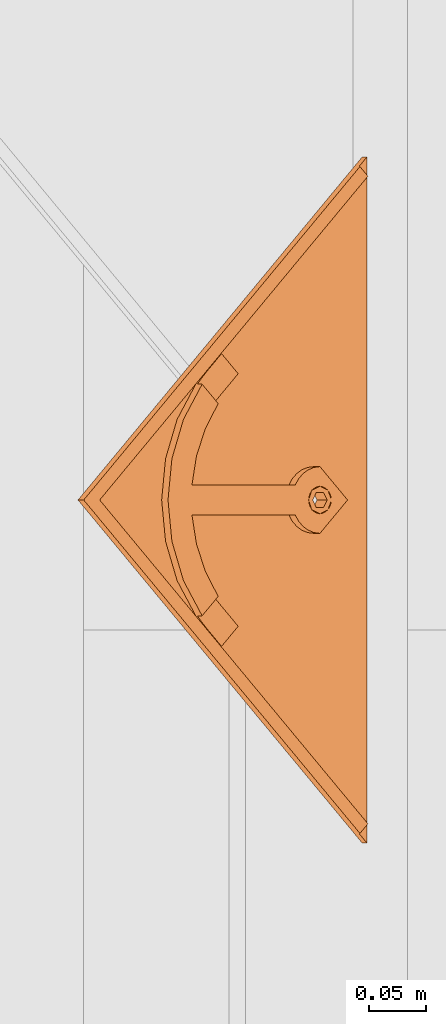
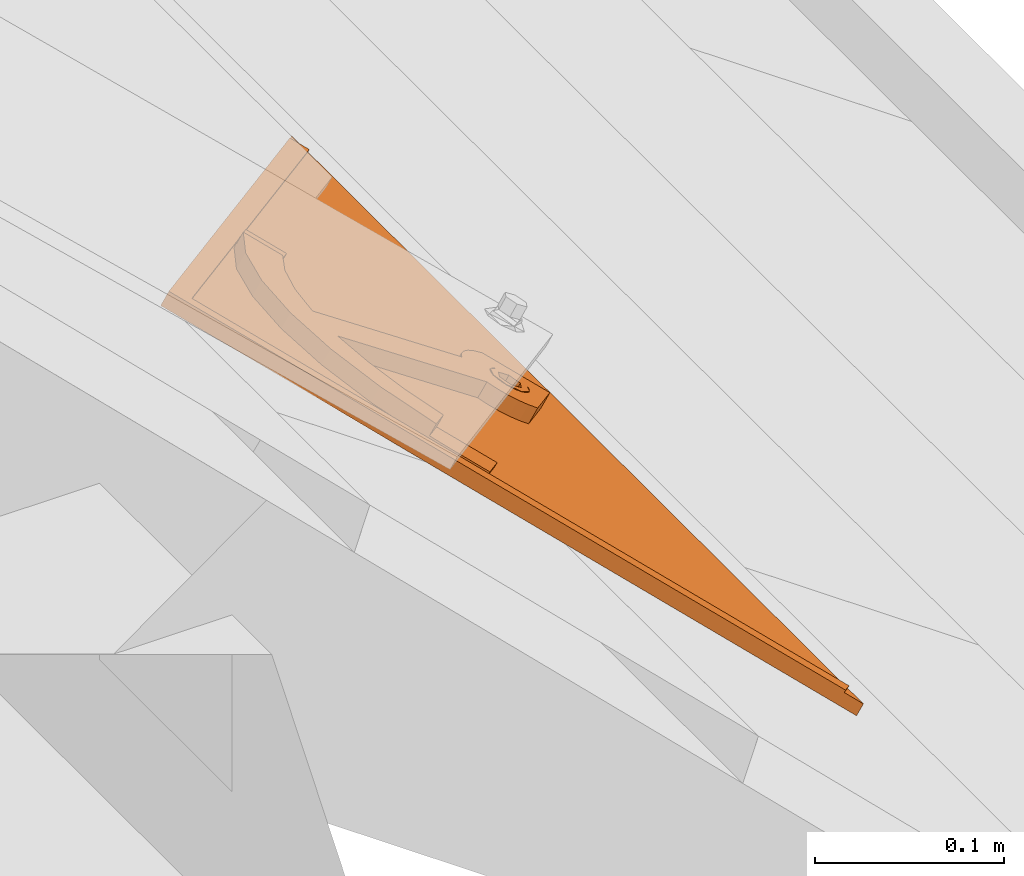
# One storey, part 114 of 133: 1 proxy.
"""IFC2X3 building model written with IfcOpenShell, lengths in millimetres."""

from ifc_helpers import new_model, entity, si_unit, converted_unit, derived_unit, direction, frame, origin, place, context, subcontext, project, spatial, faceted_brep, source, transform, mapped, material, material_list, type_object, type_shapes, element, save


model = new_model("IFC2X3")

# Units and contexts
model_context = context("Model", 3, precision=0.01, world=origin(), true_north=direction((6.12303176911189e-17, 1.0)))
body_context = subcontext(model_context, "Body", "Model", "MODEL_VIEW")
ifc_project = project(units=[si_unit("LENGTHUNIT", "METRE", prefix="MILLI"), si_unit("AREAUNIT", "SQUARE_METRE"), si_unit("VOLUMEUNIT", "CUBIC_METRE"), converted_unit("PLANEANGLEUNIT", "DEGREE", entity("IfcRatioMeasure", 0.0174532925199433), si_unit("PLANEANGLEUNIT", "RADIAN"), dimensions=[0, 0, 0, 0, 0, 0, 0]), si_unit("MASSUNIT", "GRAM", prefix="KILO"), derived_unit("MASSDENSITYUNIT", [(si_unit("MASSUNIT", "GRAM", prefix="KILO"), 1), (si_unit("LENGTHUNIT", "METRE"), -3)]), si_unit("TIMEUNIT", "SECOND"), si_unit("FREQUENCYUNIT", "HERTZ"), si_unit("THERMODYNAMICTEMPERATUREUNIT", "DEGREE_CELSIUS"), derived_unit("THERMALTRANSMITTANCEUNIT", [(si_unit("MASSUNIT", "GRAM", prefix="KILO"), 1), (si_unit("THERMODYNAMICTEMPERATUREUNIT", "KELVIN"), -1), (si_unit("TIMEUNIT", "SECOND"), -3)]), derived_unit("VOLUMETRICFLOWRATEUNIT", [(si_unit("LENGTHUNIT", "METRE"), 3), (si_unit("TIMEUNIT", "SECOND"), -1)]), si_unit("ELECTRICCURRENTUNIT", "AMPERE"), si_unit("ELECTRICVOLTAGEUNIT", "VOLT"), si_unit("POWERUNIT", "WATT"), si_unit("FORCEUNIT", "NEWTON", prefix="KILO"), si_unit("ILLUMINANCEUNIT", "LUX"), si_unit("LUMINOUSFLUXUNIT", "LUMEN"), si_unit("LUMINOUSINTENSITYUNIT", "CANDELA"), derived_unit("USERDEFINED", [(si_unit("MASSUNIT", "GRAM", prefix="KILO"), -1), (si_unit("LENGTHUNIT", "METRE"), -2), (si_unit("TIMEUNIT", "SECOND"), 3), (si_unit("LUMINOUSFLUXUNIT", "LUMEN"), 1)]), derived_unit("LINEARVELOCITYUNIT", [(si_unit("LENGTHUNIT", "METRE"), 1), (si_unit("TIMEUNIT", "SECOND"), -1)]), si_unit("PRESSUREUNIT", "PASCAL"), derived_unit("USERDEFINED", [(si_unit("LENGTHUNIT", "METRE"), -2), (si_unit("MASSUNIT", "GRAM", prefix="KILO"), 1), (si_unit("TIMEUNIT", "SECOND"), -2)])], contexts=[model_context])

# Site, building, storey
site_placement = place(None, origin())
site = spatial("IfcSite", under=ifc_project, at=site_placement, Name="Default", CompositionType="ELEMENT")
building_placement = place(site_placement, origin())
building = spatial("IfcBuilding", under=site, at=building_placement, CompositionType="ELEMENT")
storey_placement = place(building_placement, origin())
storey = spatial("IfcBuildingStorey", under=building, at=storey_placement, Name="Level 1", CompositionType="ELEMENT", Elevation=0.0)

# Proxy
ifc_material_1 = material(Name="Rubber - Sunstyle - Black")
ifc_material_2 = material(Name="Glass - Sunstyle - Tainted Black")
ifc_material_list_1 = material_list([ifc_material_1, ifc_material_2])
ifc_material_list_2 = material_list([ifc_material_1, ifc_material_2])
building_element_proxy_type = type_object("IfcBuildingElementProxyType", Name="Shingle Bottom Small - Black", PredefinedType="NOTDEFINED", material=ifc_material_list_2)
shared_shape = source(origin(), body_context, "Body", "Brep", [
    faceted_brep([(302.08842791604, 44.9093317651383, 22.0558382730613), (302.08842791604, 49.408700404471, 21.980485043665), (293.484723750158, 48.4726030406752, 21.9961623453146), (310.692132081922, 48.4726030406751, 21.9961623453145), (308.728656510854, 53.2419006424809, 21.9162884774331), (314.255903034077, 57.0751008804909, 21.8520919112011), (308.728656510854, 60.9083011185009, 21.7878953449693), (310.692132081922, 65.6775987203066, 21.7080214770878), (302.08842791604, 64.7415013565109, 21.7236987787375), (302.08842791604, 69.2408699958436, 21.6483455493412), (293.484723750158, 65.6775987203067, 21.708021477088), (295.448199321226, 60.908301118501, 21.7878953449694), (289.920952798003, 57.0751008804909, 21.8520919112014), (295.448199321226, 53.2419006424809, 21.9162884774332), (295.448199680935, 60.6403782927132, 5.79013870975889), (302.08842791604, 64.473578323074, 5.72594214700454), (295.448199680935, 52.9739782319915, 5.91853183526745), (302.08842791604, 49.1407782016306, 5.98272839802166), (308.728656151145, 52.9739782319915, 5.91853183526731), (308.728656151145, 60.6403782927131, 5.79013870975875), (293.484723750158, 48.2046804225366, 5.99840570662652), (302.08842791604, 44.6414091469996, 6.05808163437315), (289.920952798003, 56.8071782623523, 5.85433527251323), (293.484723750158, 65.4096761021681, 5.71026483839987), (302.08842791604, 68.972947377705, 5.65058891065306), (310.692132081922, 65.409676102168, 5.71026483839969), (314.255903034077, 56.8071782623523, 5.85433527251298), (310.692132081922, 48.2046804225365, 5.99840570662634)], [[[0, 1, 2]], [[1, 0, 3]], [[3, 4, 1]], [[4, 3, 5]], [[6, 4, 5]], [[5, 7, 6]], [[7, 8, 6]], [[8, 7, 9]], [[8, 9, 10]], [[10, 11, 8]], [[12, 11, 10]], [[2, 13, 12]], [[12, 13, 11]], [[13, 2, 1]], [[8, 11, 14, 15]], [[11, 13, 16, 14]], [[13, 1, 17, 16]], [[1, 4, 18, 17]], [[4, 6, 19, 18]], [[6, 8, 15, 19]], [[20, 17, 21]], [[17, 20, 16]], [[22, 16, 20]], [[14, 16, 22]], [[23, 14, 22]], [[15, 14, 23]], [[23, 24, 15]], [[24, 25, 15]], [[19, 15, 25]], [[19, 25, 26]], [[26, 18, 19]], [[26, 27, 18]], [[17, 18, 27]], [[27, 21, 17]], [[24, 23, 10, 9]], [[10, 23, 22, 12]], [[20, 21, 0, 2]], [[20, 2, 12, 22]], [[21, 27, 3, 0]], [[3, 27, 26, 5]], [[25, 24, 9, 7]], [[25, 7, 5, 26]]]),
    faceted_brep([(587.35835892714, 0.0, 12.5593198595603), (595.843045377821, 8.4846864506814, 12.4172224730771), (595.843045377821, 8.50980419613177, 13.9170121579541), (587.35835892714, 0.0251177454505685, 14.0591095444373), (302.088750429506, 285.189618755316, 7.7831033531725), (16.8191419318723, 0.0, 12.5593198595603), (8.33445548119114, 8.48468645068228, 12.4172224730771), (302.088750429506, 302.156612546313, 7.49894842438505), (302.088750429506, 302.181730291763, 8.9987381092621), (8.33445548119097, 8.50980419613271, 13.9170121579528), (16.8191419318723, 0.0251177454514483, 14.0591095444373), (302.088750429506, 285.214736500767, 9.28289303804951)], [[[0, 1, 2, 3]], [[1, 0, 4, 5, 6, 7]], [[2, 1, 7, 8]], [[3, 2, 8, 9, 10, 11]], [[0, 3, 11, 4]], [[5, 10, 9, 6]], [[8, 7, 6, 9]], [[4, 11, 10, 5]]]),
    faceted_brep([(302.088750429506, 302.156612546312, 7.49894842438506), (305.194256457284, 68.3255429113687, 11.4150370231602), (308.088427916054, 67.1269059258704, 11.4351112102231), (302.088427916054, 68.7343756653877, 11.4081900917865), (310.573709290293, 65.2201498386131, 11.4670446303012), (298.982599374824, 68.3255429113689, 11.4150370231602), (296.088427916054, 67.1269059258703, 11.4351112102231), (293.603146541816, 65.2201498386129, 11.4670446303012), (312.480732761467, 62.7352169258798, 11.5086610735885), (604.177500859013, 0.152567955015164, 12.5567647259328), (291.696123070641, 62.7352169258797, 11.5086610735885), (0.0, 0.152567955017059, 12.5567647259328), (290.497318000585, 59.8414512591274, 11.5571244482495), (290.088427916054, 56.7360581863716, 11.6091320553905), (290.497318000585, 53.6306651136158, 11.6611396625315), (291.696123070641, 50.7368994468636, 11.7096030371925), (293.603146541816, 48.2519665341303, 11.7512194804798), (296.088427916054, 46.3452104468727, 11.7831529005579), (298.982599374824, 45.1465734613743, 11.8032270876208), (302.088427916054, 44.7377407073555, 11.8100740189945), (313.679537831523, 59.8414512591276, 11.5571244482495), (314.088427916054, 56.7360581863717, 11.6091320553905), (313.679537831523, 53.6306651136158, 11.6611396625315), (312.480732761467, 50.7368994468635, 11.7096030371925), (310.573709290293, 48.2519665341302, 11.7512194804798), (308.088427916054, 46.3452104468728, 11.7831529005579), (305.194256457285, 45.1465734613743, 11.8032270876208), (0.0, 0.0269792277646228, 5.0578163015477), (290.088427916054, 56.6104694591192, 4.11018363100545), (290.497318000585, 53.5050763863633, 4.16219123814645), (290.497318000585, 59.7158625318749, 4.05817602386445), (291.696123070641, 50.6113107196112, 4.21065461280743), (291.696123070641, 62.6096281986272, 4.00971264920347), (302.088750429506, 302.031023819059, 0.0), (293.603146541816, 48.1263778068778, 4.25227105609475), (296.088427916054, 46.2196217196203, 4.28420447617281), (298.982599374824, 45.0209847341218, 4.30427866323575), (302.088427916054, 44.612151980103, 4.31112559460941), (604.177500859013, 0.0269792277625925, 5.05781630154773), (293.603146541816, 65.0945611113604, 3.96809620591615), (296.088427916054, 67.0013171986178, 3.93616278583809), (298.982599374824, 68.1999541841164, 3.91608859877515), (302.088427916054, 68.6087869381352, 3.90924166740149), (305.194256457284, 68.1999541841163, 3.91608859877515), (308.088427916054, 67.0013171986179, 3.93616278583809), (310.573709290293, 65.0945611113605, 3.96809620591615), (312.480732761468, 62.6096281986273, 4.00971264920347), (305.194256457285, 45.0209847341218, 4.30427866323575), (308.088427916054, 46.2196217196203, 4.28420447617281), (313.679537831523, 59.7158625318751, 4.05817602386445), (314.088427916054, 56.6104694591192, 4.11018363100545), (313.679537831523, 53.5050763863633, 4.16219123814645), (312.480732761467, 50.611310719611, 4.21065461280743), (310.573709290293, 48.1263778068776, 4.25227105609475)], [[[0, 1, 2]], [[1, 0, 3]], [[0, 2, 4]], [[5, 3, 0]], [[6, 5, 0]], [[0, 7, 6]], [[8, 0, 4]], [[0, 8, 9]], [[7, 0, 10]], [[0, 11, 10]], [[12, 10, 11]], [[11, 13, 12]], [[13, 11, 14]], [[15, 14, 11]], [[11, 16, 15]], [[17, 16, 11]], [[17, 11, 18]], [[19, 18, 11]], [[19, 11, 9]], [[9, 8, 20]], [[20, 21, 9]], [[21, 22, 9]], [[22, 23, 9]], [[9, 23, 24]], [[24, 25, 9]], [[25, 26, 9]], [[9, 26, 19]], [[27, 28, 29]], [[28, 27, 30]], [[27, 29, 31]], [[32, 30, 27]], [[32, 27, 33]], [[31, 34, 27]], [[34, 35, 27]], [[35, 36, 27]], [[36, 37, 27]], [[27, 37, 38]], [[33, 39, 32]], [[40, 39, 33]], [[41, 40, 33]], [[42, 41, 33]], [[33, 43, 42]], [[43, 33, 44]], [[45, 44, 33]], [[33, 46, 45]], [[46, 33, 38]], [[38, 37, 47]], [[47, 48, 38]], [[49, 46, 38]], [[38, 50, 49]], [[50, 38, 51]], [[52, 51, 38]], [[53, 52, 38]], [[53, 38, 48]], [[11, 0, 33, 27]], [[0, 9, 38, 33]], [[13, 28, 30, 12]], [[12, 30, 32, 10]], [[6, 7, 39, 40]], [[39, 7, 10, 32]], [[5, 6, 40, 41]], [[5, 41, 42, 3]], [[3, 42, 43, 1]], [[1, 43, 44, 2]], [[8, 4, 45, 46]], [[45, 4, 2, 44]], [[20, 8, 46, 49]], [[20, 49, 50, 21]], [[21, 50, 51, 22]], [[22, 51, 52, 23]], [[25, 24, 53, 48]], [[53, 24, 23, 52]], [[26, 25, 48, 47]], [[26, 47, 37, 19]], [[19, 37, 36, 18]], [[18, 36, 35, 17]], [[15, 16, 34, 31]], [[34, 16, 17, 35]], [[14, 15, 31, 29]], [[14, 29, 28, 13]], [[9, 11, 27, 38]]]),
    faceted_brep([(190.819384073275, 138.646056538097, 12.7376939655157), (217.144031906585, 164.967013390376, 12.2968834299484), (200.060856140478, 182.04779392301, 12.0108228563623), (193.80845410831, 176.686146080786, 12.100617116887), (187.837458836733, 171.012871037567, 12.1956303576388), (173.141714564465, 156.321247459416, 12.4416784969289), (431.035141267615, 156.321247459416, 12.4416784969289), (416.339396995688, 171.012871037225, 12.1956303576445), (410.36840172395, 176.686146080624, 12.1006171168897), (404.115999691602, 182.047793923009, 12.0108228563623), (387.031626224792, 164.968210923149, 12.2968633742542), (413.357471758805, 138.646056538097, 12.7376939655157), (296.088427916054, 67.294357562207, 21.4337091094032), (288.788427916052, 83.1076295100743, 21.1688761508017), (283.384321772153, 79.569581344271, 21.2281296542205), (293.603146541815, 65.3876014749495, 21.4656425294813), (298.982599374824, 68.4929945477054, 21.4136349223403), (302.088427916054, 68.9018273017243, 21.4067879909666), (315.388427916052, 83.107629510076, 21.1688761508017), (305.194256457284, 68.4929945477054, 21.4136349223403), (308.088427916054, 67.2943575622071, 21.4337091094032), (320.792534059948, 79.5695813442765, 21.2281296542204), (310.573709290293, 65.3876014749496, 21.4656425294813), (325.293078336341, 74.9365758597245, 21.3057209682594), (312.480732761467, 62.9026685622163, 21.5072589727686), (328.672647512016, 69.4324252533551, 21.3979017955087), (313.679537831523, 60.0089028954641, 21.5557223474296), (330.767980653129, 63.323025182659, 21.500219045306), (314.088427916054, 56.9035098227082, 21.6077299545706), (331.477855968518, 56.9035098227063, 21.6077299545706), (313.679537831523, 53.7981167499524, 21.6597375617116), (312.480732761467, 50.9043510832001, 21.7082009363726), (310.573709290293, 48.4194181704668, 21.7498173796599), (302.08842791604, 27.5182024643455, 22.0998607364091), (308.088427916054, 46.5126620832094, 21.7817507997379), (305.194256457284, 45.314025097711, 21.8018249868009), (302.088427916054, 44.9051923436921, 21.8086719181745), (298.982599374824, 45.314025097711, 21.8018249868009), (296.088427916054, 46.5126620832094, 21.7817507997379), (293.603146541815, 48.4194181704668, 21.7498173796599), (272.69899986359, 56.903509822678, 21.6077299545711), (291.696123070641, 50.9043510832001, 21.7082009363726), (290.497318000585, 53.7981167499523, 21.6597375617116), (290.088427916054, 56.9035098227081, 21.6077299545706), (273.408875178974, 63.3230251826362, 21.5002190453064), (290.497318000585, 60.008902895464, 21.5557223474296), (275.504208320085, 69.4324252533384, 21.397901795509), (291.696123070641, 62.9026685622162, 21.5072589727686), (278.883777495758, 74.9365758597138, 21.3057209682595), (288.788427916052, 192.984512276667, 19.3287117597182), (315.388427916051, 192.984512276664, 19.3287117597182), (302.088427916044, 218.456125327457, 18.9021256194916), (338.579268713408, 214.282159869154, 18.9720291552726), (340.858170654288, 188.169632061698, 19.4093490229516), (373.184513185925, 201.975945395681, 19.1781276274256), (365.012761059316, 178.765998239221, 19.5668364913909), (404.115999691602, 182.173382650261, 19.5097712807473), (387.032823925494, 165.092602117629, 19.7958318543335), (265.59758711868, 214.28215986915, 18.9720291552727), (263.318685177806, 188.169632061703, 19.4093490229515), (230.992342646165, 201.975945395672, 19.1781276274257), (239.164094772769, 178.765998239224, 19.5668364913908), (200.06085614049, 182.173382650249, 19.5097712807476), (217.144031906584, 165.092602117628, 19.7958318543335), (302.08842791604, 27.3507508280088, 12.1012628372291), (302.088427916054, 44.7377407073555, 11.8100740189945), (305.194256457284, 45.1465734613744, 11.8032270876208), (298.982599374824, 45.1465734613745, 11.8032270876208), (308.088427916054, 46.3452104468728, 11.7831529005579), (310.573709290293, 48.2519665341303, 11.7512194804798), (331.477855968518, 56.7360581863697, 11.6091320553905), (296.088427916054, 46.3452104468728, 11.7831529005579), (293.603146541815, 48.2519665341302, 11.7512194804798), (272.69899986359, 56.7360581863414, 11.609132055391), (291.696123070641, 50.7368994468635, 11.7096030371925), (290.497318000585, 53.6306651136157, 11.6611396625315), (290.088427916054, 56.7360581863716, 11.6091320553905), (273.408875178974, 63.1555735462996, 11.5016211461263), (290.497318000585, 59.8414512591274, 11.5571244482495), (275.504208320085, 69.2649736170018, 11.3993038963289), (291.696123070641, 62.7352169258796, 11.5086610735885), (278.883777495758, 74.7691242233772, 11.3071230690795), (293.603146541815, 65.2201498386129, 11.4670446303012), (283.384321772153, 79.4021297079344, 11.2295317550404), (296.088427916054, 67.1269059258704, 11.4351112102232), (288.788427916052, 82.9401778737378, 11.1702782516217), (298.982599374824, 68.3255429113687, 11.4150370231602), (302.088427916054, 68.7343756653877, 11.4081900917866), (315.388427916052, 82.9401778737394, 11.1702782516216), (288.788427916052, 192.81706064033, 9.33011386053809), (315.388427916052, 192.817060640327, 9.33011386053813), (302.088427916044, 218.28867369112, 8.90352772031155), (265.59758711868, 214.114708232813, 8.97343125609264), (263.318685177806, 188.002180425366, 9.41075112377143), (230.992342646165, 201.808493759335, 9.17952972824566), (239.164094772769, 178.598546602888, 9.56823859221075), (200.06085614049, 182.005931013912, 9.51117338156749), (217.145229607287, 164.926348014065, 9.79721389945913), (193.80845410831, 176.644283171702, 9.60096764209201), (187.837458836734, 170.971008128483, 9.69598088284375), (190.819384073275, 138.604193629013, 10.2380444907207), (173.141714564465, 156.279384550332, 9.94202902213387), (338.579268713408, 214.114708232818, 8.97343125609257), (340.858170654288, 188.002180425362, 9.41075112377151), (373.184513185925, 201.808493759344, 9.17952972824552), (365.012761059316, 178.598546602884, 9.5682385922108), (404.115999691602, 182.005931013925, 9.51117338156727), (387.032823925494, 164.925150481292, 9.79723395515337), (410.36840172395, 176.64428317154, 9.60096764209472), (416.339396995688, 170.971008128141, 9.69598088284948), (413.357471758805, 138.604193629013, 10.2380444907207), (431.035141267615, 156.279384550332, 9.94202902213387), (305.194256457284, 68.3255429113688, 11.4150370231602), (308.088427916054, 67.1269059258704, 11.4351112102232), (320.792534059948, 79.4021297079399, 11.2295317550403), (310.573709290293, 65.220149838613, 11.4670446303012), (325.293078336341, 74.7691242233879, 11.3071230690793), (312.480732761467, 62.7352169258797, 11.5086610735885), (328.672647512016, 69.2649736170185, 11.3993038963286), (313.679537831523, 59.8414512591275, 11.5571244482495), (330.767980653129, 63.1555735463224, 11.5016211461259), (314.088427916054, 56.7360581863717, 11.6091320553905), (312.480732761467, 50.7368994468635, 11.7096030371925), (313.679537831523, 53.6306651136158, 11.6611396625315)], [[[0, 1, 2, 3, 4, 5]], [[6, 7, 8, 9, 10, 11]], [[12, 13, 14]], [[12, 14, 15]], [[16, 13, 12]], [[17, 13, 16]], [[18, 13, 17]], [[17, 19, 18]], [[19, 20, 18]], [[20, 21, 18]], [[21, 20, 22]], [[21, 22, 23]], [[24, 23, 22]], [[23, 24, 25]], [[24, 26, 25]], [[27, 25, 26]], [[26, 28, 27]], [[29, 27, 28]], [[28, 30, 29]], [[30, 31, 29]], [[29, 31, 32]], [[32, 33, 29]], [[32, 34, 33]], [[35, 33, 34]], [[36, 33, 35]], [[33, 36, 37]], [[38, 33, 37]], [[38, 39, 33]], [[40, 33, 39]], [[41, 40, 39]], [[41, 42, 40]], [[42, 43, 40]], [[43, 44, 40]], [[45, 44, 43]], [[45, 46, 44]], [[45, 47, 46]], [[48, 46, 47]], [[48, 47, 15]], [[48, 15, 14]], [[18, 49, 13]], [[50, 49, 18]], [[51, 49, 50]], [[50, 52, 51]], [[50, 53, 52]], [[52, 53, 54]], [[53, 55, 54]], [[56, 54, 55]], [[57, 56, 55]], [[58, 49, 51]], [[49, 58, 59]], [[60, 59, 58]], [[60, 61, 59]], [[61, 60, 62]], [[62, 63, 61]], [[64, 65, 66]], [[65, 64, 67]], [[64, 66, 68]], [[68, 69, 64]], [[64, 69, 70]], [[71, 67, 64]], [[71, 64, 72]], [[72, 64, 73]], [[73, 74, 72]], [[74, 73, 75]], [[75, 73, 76]], [[77, 76, 73]], [[76, 77, 78]], [[78, 77, 79]], [[80, 78, 79]], [[81, 80, 79]], [[82, 80, 81]], [[83, 82, 81]], [[83, 84, 82]], [[85, 84, 83]], [[85, 86, 84]], [[87, 86, 85]], [[88, 87, 85]], [[89, 88, 85]], [[88, 89, 90]], [[89, 91, 90]], [[91, 89, 92]], [[93, 92, 89]], [[92, 93, 94]], [[95, 94, 93]], [[96, 94, 95]], [[95, 97, 96]], [[97, 98, 96]], [[98, 97, 99]], [[97, 100, 99]], [[99, 100, 101]], [[90, 91, 102]], [[103, 90, 102]], [[103, 102, 104]], [[105, 103, 104]], [[106, 105, 104]], [[107, 105, 106]], [[106, 108, 107]], [[109, 107, 108]], [[110, 107, 109]], [[109, 111, 110]], [[112, 87, 88]], [[113, 112, 88]], [[114, 113, 88]], [[115, 113, 114]], [[115, 114, 116]], [[116, 117, 115]], [[117, 116, 118]], [[118, 119, 117]], [[120, 119, 118]], [[121, 120, 70]], [[120, 121, 119]], [[70, 69, 122]], [[122, 123, 70]], [[123, 121, 70]], [[13, 49, 89, 85]], [[14, 13, 85, 83]], [[48, 14, 83, 81]], [[81, 79, 46, 48]], [[44, 46, 79, 77]], [[40, 44, 77, 73]], [[33, 40, 73, 64]], [[0, 5, 101, 100]], [[29, 33, 64, 70]], [[6, 11, 110, 111]], [[27, 29, 70, 120]], [[25, 27, 120, 118]], [[118, 116, 23, 25]], [[21, 23, 116, 114]], [[18, 21, 114, 88]], [[50, 18, 88, 90]], [[9, 106, 104, 54, 56]], [[52, 54, 104, 102]], [[51, 52, 102, 91]], [[58, 51, 91, 92]], [[94, 96, 2, 62, 60]], [[60, 58, 92, 94]], [[43, 76, 78, 45]], [[45, 78, 80, 47]], [[12, 15, 82, 84]], [[80, 82, 15, 47]], [[16, 12, 84, 86]], [[87, 17, 16, 86]], [[19, 112, 113, 20]], [[20, 113, 115, 22]], [[26, 24, 117, 119]], [[115, 117, 24, 22]], [[28, 26, 119, 121]], [[19, 17, 87, 112]], [[28, 121, 123, 30]], [[30, 123, 122, 31]], [[34, 32, 69, 68]], [[122, 69, 32, 31]], [[35, 34, 68, 66]], [[65, 36, 35, 66]], [[37, 67, 71, 38]], [[38, 71, 72, 39]], [[42, 41, 74, 75]], [[72, 74, 41, 39]], [[43, 42, 75, 76]], [[37, 36, 65, 67]], [[7, 6, 111, 109]], [[7, 109, 108, 8]], [[108, 106, 9, 8]], [[11, 10, 107, 110]], [[1, 0, 100, 97]], [[2, 96, 98, 3]], [[98, 99, 4, 3]], [[5, 4, 99, 101]], [[63, 62, 2, 1]], [[56, 57, 10]], [[10, 9, 56]], [[1, 95, 61, 63]], [[1, 97, 95]], [[93, 89, 49, 59]], [[95, 93, 59, 61]], [[90, 103, 53, 50]], [[103, 105, 55, 53]], [[10, 57, 55]], [[107, 10, 105]], [[55, 105, 10]]]),
])
type_shapes(building_element_proxy_type, [shared_shape])
proxy_placement = place(storey_placement, frame((4462.89353187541, -4332.05308792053, 548.44370609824), z_axis=(0.573576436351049, 0.0, 0.81915204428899), x_axis=(0.0, 1.0, 0.0)))
element("IfcBuildingElementProxy", 1, at=proxy_placement, inside=storey, type_object=building_element_proxy_type, material=ifc_material_list_1, Name="Roofing_Panels_SunStyle_Tile_Shingle-Bottom-Small:Shingle Bottom Small - Black", ObjectType="Roofing_Panels_SunStyle_Tile_Shingle-Bottom-Small:Shingle Bottom Small - Black", context=body_context, shape_type="MappedRepresentation", body=[
    mapped(shared_shape, transform((0.0, 0.0, 0.0), scale=1.0)),
])

save(model, "model.ifc")
